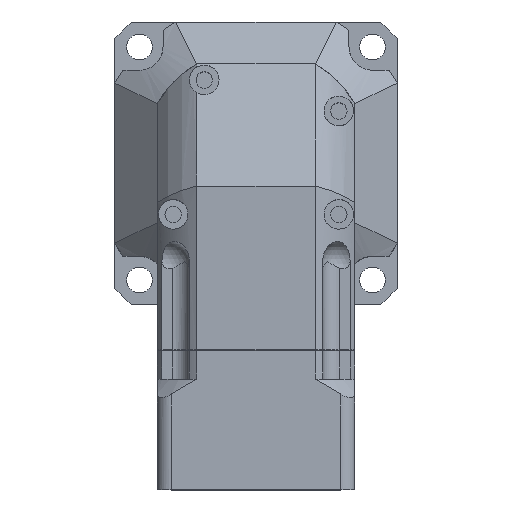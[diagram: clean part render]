
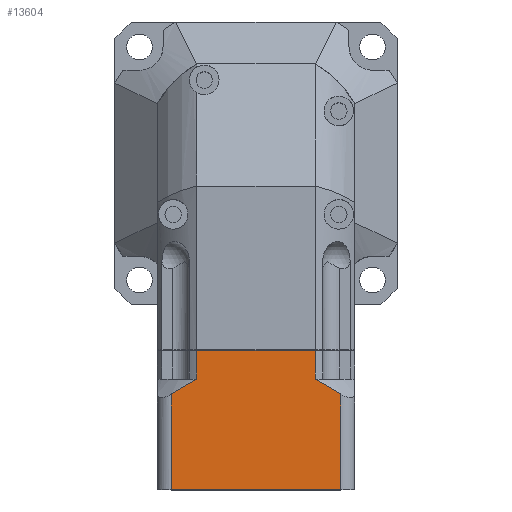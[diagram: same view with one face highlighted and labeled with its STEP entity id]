
A CAD part, top view. The second image highlights one B-rep face of the part: STEP entity #13604.
In plain terms, the highlighted planar face has unit normal (0, 0, 1) as drawn and (0, 0, -1) by its records, which use the part's own axes.
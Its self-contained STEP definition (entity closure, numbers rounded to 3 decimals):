
#11641=DIRECTION('',(-1.,0.,0.));
#11642=VECTOR('',#11641,36.);
#11643=CARTESIAN_POINT('',(18.,29.5,-21.));
#11644=LINE('',#11643,#11642);
#11810=DIRECTION('',(0.,1.,0.));
#11811=VECTOR('',#11810,20.341);
#11812=CARTESIAN_POINT('',(-18.,9.159,-21.));
#11813=LINE('',#11812,#11811);
#12110=DIRECTION('',(-1.,0.,0.));
#12111=VECTOR('',#12110,25.239);
#12112=CARTESIAN_POINT('',(12.619,0.,-21.));
#12113=LINE('',#12112,#12111);
#12124=DIRECTION('',(0.,1.,0.));
#12125=VECTOR('',#12124,6.);
#12126=CARTESIAN_POINT('',(-12.619,0.,-21.));
#12127=LINE('',#12126,#12125);
#12302=DIRECTION('',(0.,1.,0.));
#12303=VECTOR('',#12302,6.);
#12304=CARTESIAN_POINT('',(12.619,0.,-21.));
#12305=LINE('',#12304,#12303);
#12306=CARTESIAN_POINT('',(18.,9.159,-21.));
#12307=CARTESIAN_POINT('',(17.346,8.733,-21.));
#12308=CARTESIAN_POINT('',(16.074,7.932,-21.));
#12309=CARTESIAN_POINT('',(14.294,6.89,-21.));
#12310=CARTESIAN_POINT('',(13.166,6.282,-21.));
#12311=CARTESIAN_POINT('',(12.619,6.,-21.));
#12313=DIRECTION('',(0.,1.,0.));
#12314=VECTOR('',#12313,20.341);
#12315=CARTESIAN_POINT('',(18.,9.159,-21.));
#12316=LINE('',#12315,#12314);
#12317=CARTESIAN_POINT('',(-12.619,6.,-21.));
#12318=CARTESIAN_POINT('',(-13.169,6.283,-21.));
#12319=CARTESIAN_POINT('',(-14.301,6.894,-21.));
#12320=CARTESIAN_POINT('',(-16.079,7.935,-21.));
#12321=CARTESIAN_POINT('',(-17.348,8.734,-21.));
#12322=CARTESIAN_POINT('',(-18.,9.159,-21.));
#12484=CARTESIAN_POINT('',(-12.619,0.,-21.));
#12486=VERTEX_POINT('',#12484);
#12530=CARTESIAN_POINT('',(12.619,0.,-21.));
#12531=VERTEX_POINT('',#12530);
#12544=CARTESIAN_POINT('',(18.,29.5,-21.));
#12545=CARTESIAN_POINT('',(-18.,29.5,-21.));
#12546=VERTEX_POINT('',#12544);
#12547=VERTEX_POINT('',#12545);
#12588=CARTESIAN_POINT('',(-12.619,6.,-21.));
#12589=VERTEX_POINT('',#12588);
#12602=CARTESIAN_POINT('',(12.619,6.,-21.));
#12603=VERTEX_POINT('',#12602);
#12676=VERTEX_POINT('',#12306);
#12677=VERTEX_POINT('',#12322);
#13587=CARTESIAN_POINT('',(12.619,0.,-21.));
#13588=DIRECTION('',(0.,0.,-1.));
#13589=DIRECTION('',(-1.,0.,0.));
#13590=AXIS2_PLACEMENT_3D('',#13587,#13588,#13589);
#13591=PLANE('',#13590);
#13592=ORIENTED_EDGE('',*,*,#13293,.F.);
#13593=ORIENTED_EDGE('',*,*,#13273,.F.);
#13595=ORIENTED_EDGE('',*,*,#13594,.T.);
#13596=ORIENTED_EDGE('',*,*,#13045,.F.);
#13598=ORIENTED_EDGE('',*,*,#13597,.T.);
#13599=ORIENTED_EDGE('',*,*,#12733,.T.);
#13600=ORIENTED_EDGE('',*,*,#12984,.F.);
#13601=ORIENTED_EDGE('',*,*,#13066,.F.);
#13602=EDGE_LOOP('',(#13592,#13593,#13595,#13596,#13598,#13599,#13600,#13601));
#13603=FACE_OUTER_BOUND('',#13602,.F.);
#13604=ADVANCED_FACE('',(#13603),#13591,.T.);
#12312=B_SPLINE_CURVE_WITH_KNOTS('',3,(#12306,#12307,#12308,#12309,#12310,
#12311),.UNSPECIFIED.,.F.,.F.,(4,1,1,4),(0.,0.333,
0.667,1.),.UNSPECIFIED.);
#12323=B_SPLINE_CURVE_WITH_KNOTS('',3,(#12317,#12318,#12319,#12320,#12321,
#12322),.UNSPECIFIED.,.F.,.F.,(4,1,1,4),(0.,0.333,
0.667,1.),.UNSPECIFIED.);
#12733=EDGE_CURVE('',#12546,#12547,#11644,.T.);
#12984=EDGE_CURVE('',#12677,#12547,#11813,.T.);
#13045=EDGE_CURVE('',#12676,#12603,#12312,.T.);
#13066=EDGE_CURVE('',#12589,#12677,#12323,.T.);
#13273=EDGE_CURVE('',#12531,#12486,#12113,.T.);
#13293=EDGE_CURVE('',#12486,#12589,#12127,.T.);
#13594=EDGE_CURVE('',#12531,#12603,#12305,.T.);
#13597=EDGE_CURVE('',#12676,#12546,#12316,.T.);
